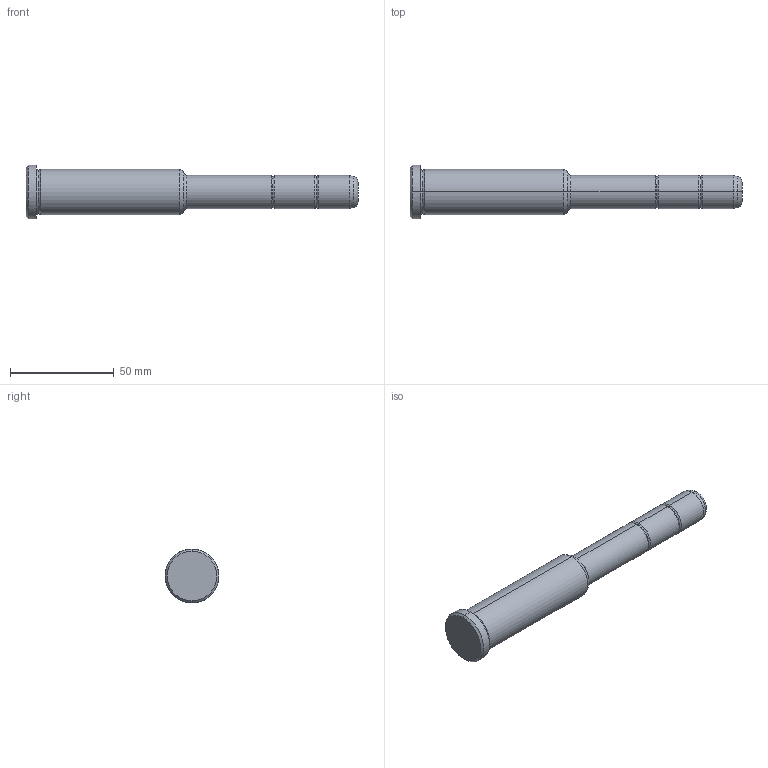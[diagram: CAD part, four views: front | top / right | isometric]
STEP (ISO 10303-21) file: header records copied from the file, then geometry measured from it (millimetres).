
FILE_DESCRIPTION(('CATIA V5 STEP Exchange'),'2;1');
FILE_NAME('C:\Users\Utente\Desktop\IO LAVORO\3D X SITO CF\X SITO\PLASTICA\351\351-16X76X160.stp','2021-08-18T12:47:21+00:00',('none'),('none'),'CATIA Version 5 Release 20 GA (IN-10)','CATIA V5 STEP AP203','none');
FILE_SCHEMA(('CONFIG_CONTROL_DESIGN'));
Length unit declared in the file: millimetre
Products named in the file (1): 351-16X76X160
Bounding box: 160 x 26 x 26 mm (x, y, z)
Volume: 46193.9 mm3; surface area: 10421.1 mm2
Topology: 1 solids, 1 shells, 36 faces, 102 edges, 70 vertices
Faces by surface type: torus 16, cylinder 10, cone 6, plane 4
Entity records: 1292 total; most frequent: CARTESIAN_POINT 321, ORIENTED_EDGE 204, DIRECTION 166, AXIS2_PLACEMENT_3D 115, EDGE_CURVE 102, CIRCLE 78, VERTEX_POINT 70, EDGE_LOOP 38
